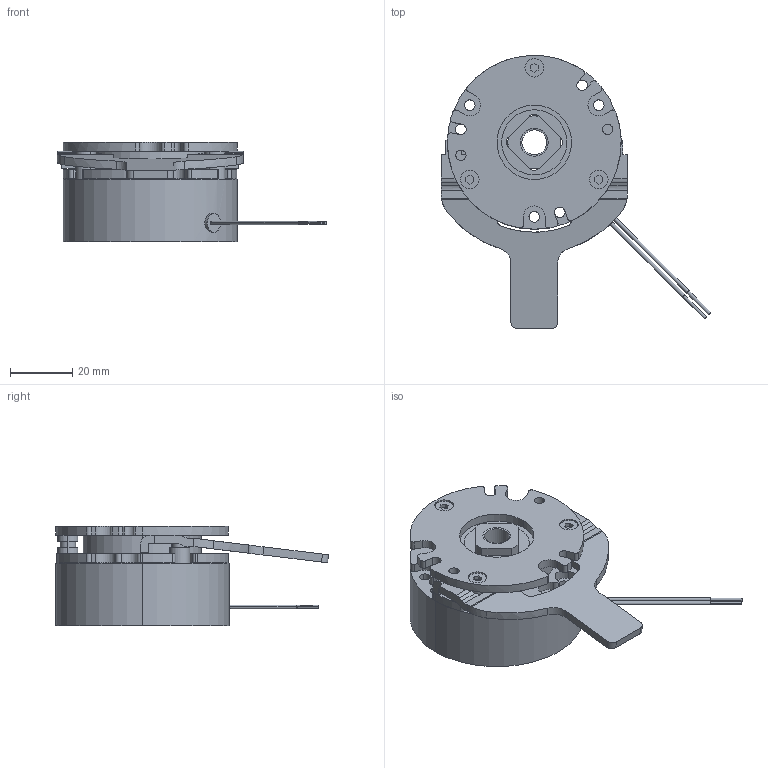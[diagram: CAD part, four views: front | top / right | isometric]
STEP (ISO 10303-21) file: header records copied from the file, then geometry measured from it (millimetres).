
FILE_DESCRIPTION (( 'STEP AP214' ), '1' );
FILE_NAME ('BXW-03-12S_STEP.STEP', '2018-06-28T23:57:22', ( 'MIKI' ), ( '' ), 'SwSTEP 2.0', 'SolidWorks 2012', '' );
FILE_SCHEMA (( 'AUTOMOTIVE_DESIGN' ));
Length unit declared in the file: millimetre
Products named in the file (1): BXW-03-12S_STEP
Bounding box: 86.89 x 88 x 31.9 mm (x, y, z)
Volume: 63540.5 mm3; surface area: 24891.7 mm2
Topology: 1 solids, 1 shells, 353 faces, 953 edges, 622 vertices
Faces by surface type: cylinder 188, plane 149, cone 16
Entity records: 15358 total; most frequent: CARTESIAN_POINT 2333, DIRECTION 1947, ORIENTED_EDGE 1898, EDGE_CURVE 949, AXIS2_PLACEMENT_3D 708, VERTEX_POINT 622, LINE 531, VECTOR 531
